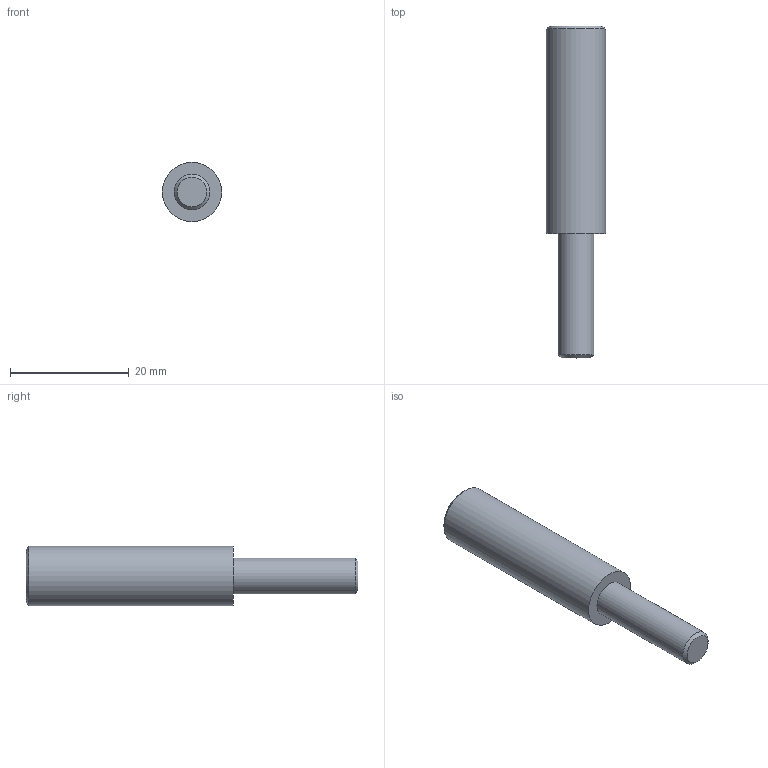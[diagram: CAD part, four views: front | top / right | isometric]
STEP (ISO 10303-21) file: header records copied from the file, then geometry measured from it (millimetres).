
FILE_DESCRIPTION((''),'2;1');
FILE_NAME('F:\HCS35-06-21-dxf\新しいフォルダ\Drawing1.stp','2013-11-28T10:16:24',('AMS8'),(''),'Autodesk Inventor 2008','Autodesk Inventor 2008','');
FILE_SCHEMA(('AUTOMOTIVE_DESIGN { 1 0 10303 214 1 1 1 1 }'));
Length unit declared in the file: millimetre
Products named in the file (1): Drawing1
Bounding box: 10 x 56 x 10 mm (x, y, z)
Surface area: 1637.1 mm2 (no closed solid volume)
Topology: 0 solids, 1 shells, 7 faces, 10 edges, 6 vertices
Faces by surface type: plane 3, cone 2, cylinder 2
Full cylindrical faces by diameter (mm): 6 x1, 10 x1
Entity records: 170 total; most frequent: DIRECTION 30, CARTESIAN_POINT 22, AXIS2_PLACEMENT_3D 14, ORIENTED_EDGE 14, EDGE_LOOP 11, EDGE_CURVE 8, FACE_OUTER_BOUND 7, ADVANCED_FACE 7
